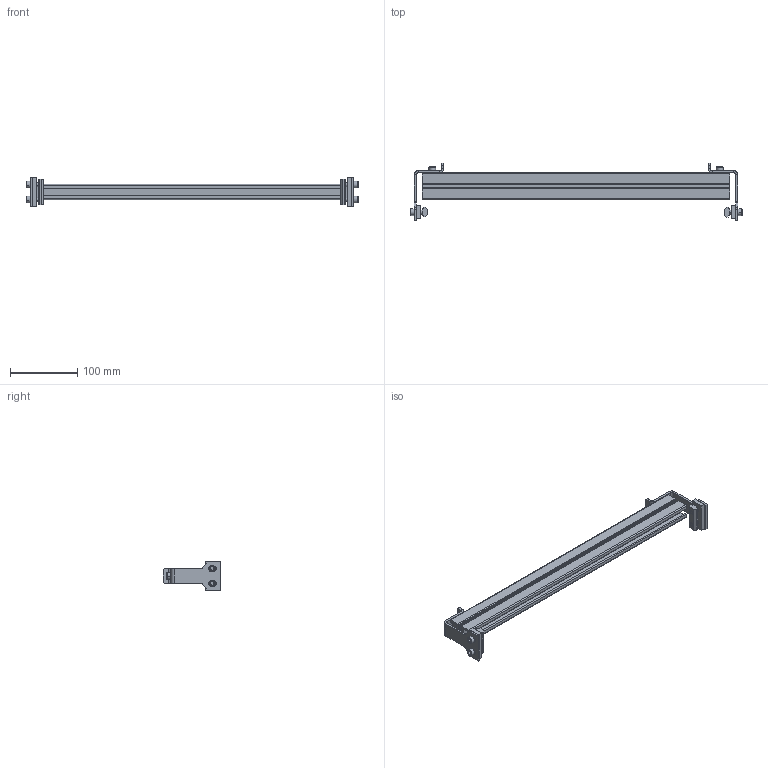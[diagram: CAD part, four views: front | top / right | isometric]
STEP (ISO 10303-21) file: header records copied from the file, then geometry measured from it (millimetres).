
FILE_DESCRIPTION (( 'STEP AP203' ), '1' );
FILE_NAME ('207133-18.STEP', '2017-10-23T16:13:50', ( '' ), ( '' ), 'SwSTEP 2.0', 'SolidWorks 2017', '' );
FILE_SCHEMA (( 'CONFIG_CONTROL_DESIGN' ));
Length unit declared in the file: inch
Products named in the file (8): 9206XXM_920614M; 201937; 200626M; 202444; 9206XXM_920620M; 207133-18; 639971M_CAE; 207135-WW_207135-18
Assembly tree (15 placements, depth 2):
  207133-18
    201937  x2
    207135-WW_207135-18
    202444  x2
    200626M  x2
    639971M_CAE  x2
    9206XXM_920614M  x2
    9206XXM_920620M  x4
Bounding box: 492.97 x 85.8 x 44.45 mm (x, y, z)
Volume: 229686.3 mm3; surface area: 141856.9 mm2
Topology: 15 solids, 15 shells, 428 faces, 1030 edges, 644 vertices
Faces by surface type: plane 258, cylinder 104, cone 66
Entity records: 8258 total; most frequent: CARTESIAN_POINT 1362, DIRECTION 1216, ORIENTED_EDGE 1200, EDGE_CURVE 600, LINE 460, VECTOR 460, VERTEX_POINT 384, AXIS2_PLACEMENT_3D 378
